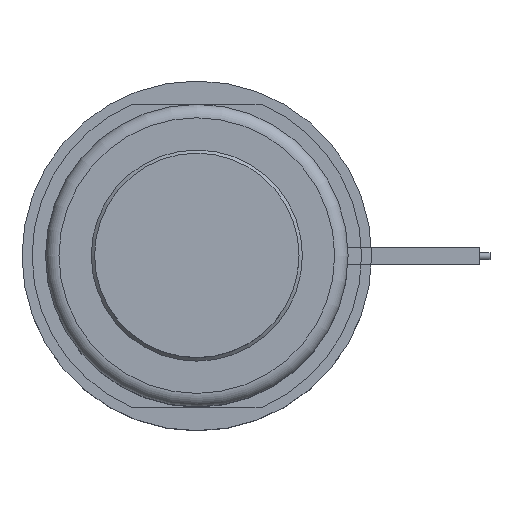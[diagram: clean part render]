
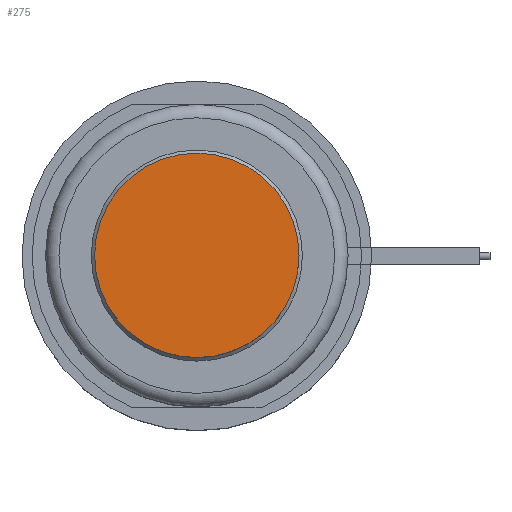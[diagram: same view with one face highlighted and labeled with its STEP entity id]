
A CAD part, top view. The second image highlights one B-rep face of the part: STEP entity #275.
In plain terms, the highlighted planar face has unit normal (0, 0, 1).
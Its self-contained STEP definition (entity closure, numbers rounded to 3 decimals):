
#275=ADVANCED_FACE('',(#408),#365,.F.);
#365=PLANE('',#1290);
#408=FACE_OUTER_BOUND('',#551,.T.);
#551=EDGE_LOOP('',(#689));
#689=ORIENTED_EDGE('',*,*,#1073,.F.);
#964=VERTEX_POINT('',#1840);
#1073=EDGE_CURVE('',#964,#964,#1211,.T.);
#1211=CIRCLE('',#1289,15.2);
#1289=AXIS2_PLACEMENT_3D('',#1839,#1463,#1464);
#1290=AXIS2_PLACEMENT_3D('',#1841,#1465,#1466);
#1463=DIRECTION('',(0.,0.,-1.));
#1464=DIRECTION('',(-1.,0.,0.));
#1465=DIRECTION('',(0.,0.,-1.));
#1466=DIRECTION('',(-1.,0.,0.));
#1839=CARTESIAN_POINT('',(0.,0.,18.));
#1840=CARTESIAN_POINT('',(-15.2,0.,18.));
#1841=CARTESIAN_POINT('',(0.,0.,18.));
